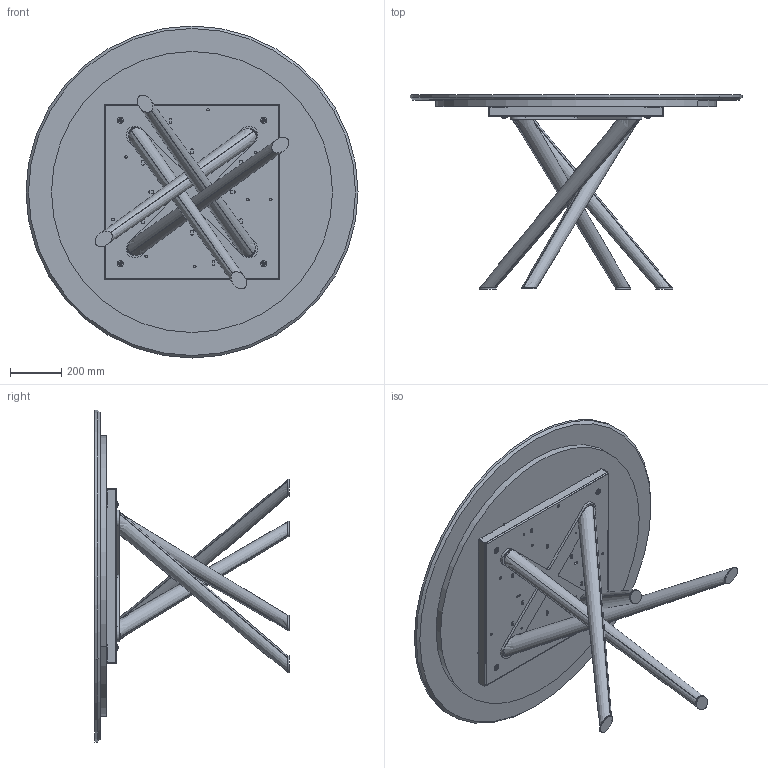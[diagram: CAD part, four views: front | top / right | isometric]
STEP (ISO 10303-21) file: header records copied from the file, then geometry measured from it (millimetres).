
FILE_DESCRIPTION (( 'STEP AP203' ), '1' );
FILE_NAME ('BA05M.STEP', '2024-08-08T06:36:19', ( '' ), ( '' ), 'SwSTEP 2.0', 'SolidWorks 2022', '' );
FILE_SCHEMA (( 'CONFIG_CONTROL_DESIGN' ));
Length unit declared in the file: millimetre
Products named in the file (14): BAB000000_02-00-basamento pali conificati; Parte5^BAB000000-00-BALY BASE GREZZA; rondella M8_8X24; BAB000000_01-00-Croce Superiore baly; TTAV0801-02-TELAIO UNIVERSALE TONDO; TTAV0801 TELAIO UNIVERSALE TONDO-PIASTRINA; M8xXXmm_M8x55mm; TTAV0801-02-TELAIO UNIVERSALE TONDO-VASSOIO; TRU0000X-00-SOTTO PIANO D.XXXXmm_TRU00002 D.110cm ; BAB000000-00-BALY BASE GREZZA; COLLO TELAIO UNIVERSALE TTAV0801 CON FERRAMENTA_MTG TOP LEGNO-MARMO-KING; M0XMXX-00-Piani Rotondi in marmo_1300; M0X-00- D. piani marmo_D.1300; BA05M
Assembly tree (22 placements, depth 4):
  BA05M
    M0XMXX-00-Piani Rotondi in marmo_1300
      TRU0000X-00-SOTTO PIANO D.XXXXmm_TRU00002 D.110cm 
      M0X-00- D. piani marmo_D.1300
    BAB000000-00-BALY BASE GREZZA
      BAB000000_01-00-Croce Superiore baly
      BAB000000_02-00-basamento pali conificati
      Parte5^BAB000000-00-BALY BASE GREZZA
    COLLO TELAIO UNIVERSALE TTAV0801 CON FERRAMENTA_MTG TOP LEGNO-MARMO-KING
      TTAV0801-02-TELAIO UNIVERSALE TONDO
        TTAV0801-02-TELAIO UNIVERSALE TONDO-VASSOIO
        TTAV0801 TELAIO UNIVERSALE TONDO-PIASTRINA  x4
      rondella M8_8X24  x4
      M8xXXmm_M8x55mm  x4
Bounding box: 1300 x 760 x 1300 mm (x, y, z)
Volume: 54775887.9 mm3; surface area: 7514045.6 mm2
Topology: 24 solids, 24 shells, 715 faces, 1831 edges, 1155 vertices
Faces by surface type: plane 312, cylinder 273, cone 74, torus 48, bspline 8
Entity records: 17463 total; most frequent: CARTESIAN_POINT 4200, DIRECTION 2457, ORIENTED_EDGE 2372, EDGE_CURVE 1186, AXIS2_PLACEMENT_3D 876, VERTEX_POINT 765, VECTOR 705, LINE 705
